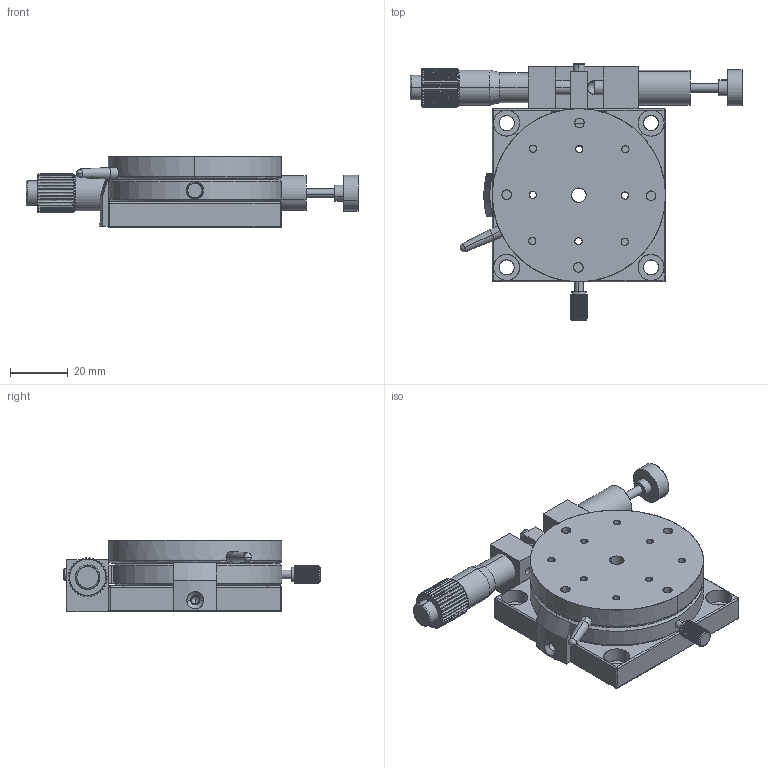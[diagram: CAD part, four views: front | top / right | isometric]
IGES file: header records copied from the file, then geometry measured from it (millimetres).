
Start section: SolidWorks IGES file using analytic representation for surfaces
Bounding box: 115 x 88.75 x 24.85 mm (x, y, z)
Surface area: 35643.2 mm2 (no closed solid volume)
Topology: 0 solids, 0 shells, 567 faces, 9324 edges, 9290 vertices
Faces by surface type: revolution 357, bspline 210
